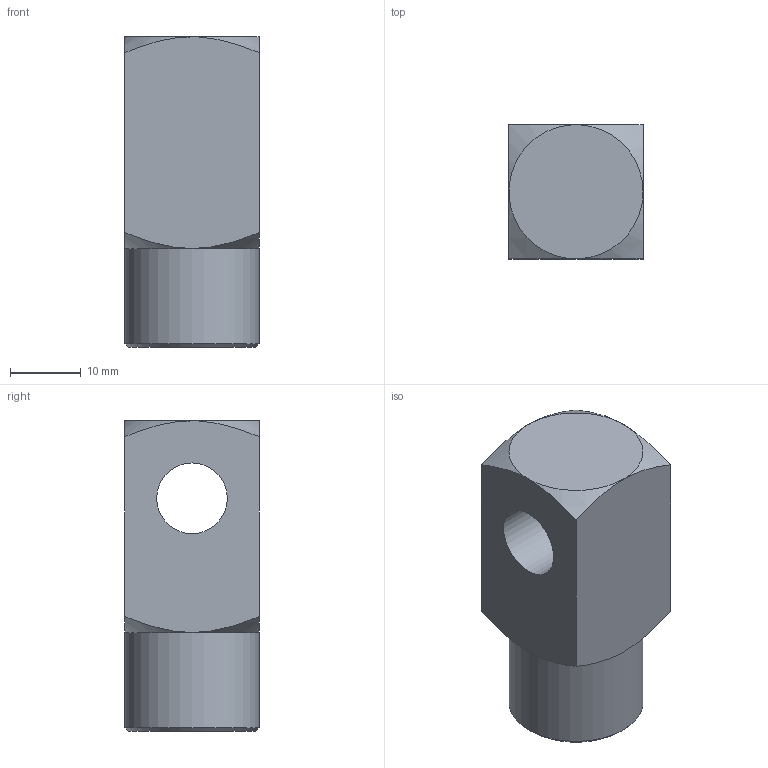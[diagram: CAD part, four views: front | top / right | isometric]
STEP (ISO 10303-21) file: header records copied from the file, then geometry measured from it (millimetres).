
FILE_DESCRIPTION(/* description */ ('Unknown'),/* implementation_level */ '2;1');
FILE_NAME(/* name */ 'WK20_I',/* time_stamp */ '2026-07-17T16:39:39+08:00',/* author */ ('Unknown'),/* organization */ ('Unknown'),/* preprocessor_version */ 'ST-DEVELOPER v16.7',/* originating_system */ 'DEX',/* authorisation */ $);
FILE_SCHEMA (('CONFIG_CONTROL_DESIGN'));
Length unit declared in the file: millimetre
Products named in the file (1): WK20_I
Bounding box: 19 x 19 x 44 mm (x, y, z)
Volume: 12514.3 mm3; surface area: 4550.9 mm2
Topology: 1 solids, 1 shells, 16 faces, 37 edges, 23 vertices
Faces by surface type: cone 7, plane 6, cylinder 3
Full cylindrical faces by diameter (mm): 6.8 x1, 10 x1, 19 x1
Entity records: 574 total; most frequent: CARTESIAN_POINT 132, DIRECTION 60, ORIENTED_EDGE 54, AXIS2_PLACEMENT_3D 28, EDGE_CURVE 27, FACE_BOUND 25, EDGE_LOOP 24, VERTEX_POINT 20
